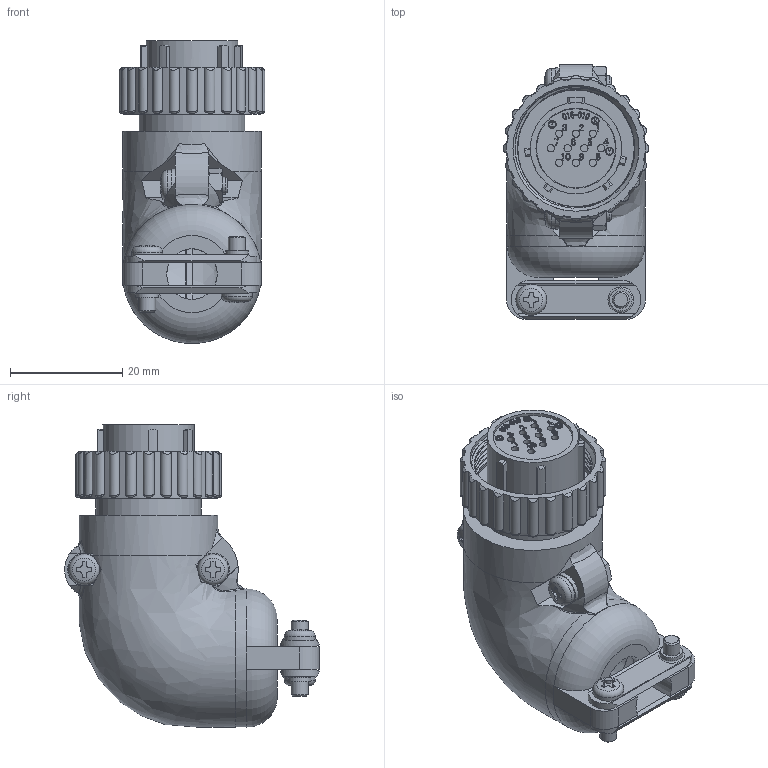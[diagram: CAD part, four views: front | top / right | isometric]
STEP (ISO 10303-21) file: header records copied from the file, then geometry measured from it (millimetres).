
FILE_DESCRIPTION (( 'STEP AP203' ), '1' );
FILE_NAME ('JMLP1610F-D.STEP', '2021-06-16T08:24:15', ( '' ), ( '' ), 'SwSTEP 2.0', 'SolidWorks 2018', '' );
FILE_SCHEMA (( 'CONFIG_CONTROL_DESIGN' ));
Length unit declared in the file: millimetre
Products named in the file (1): JMLP1610F-D
Bounding box: 26 x 45.48 x 54.08 mm (x, y, z)
Volume: 14937.8 mm3; surface area: 13650.6 mm2
Topology: 1 solids, 4 shells, 1212 faces, 3293 edges, 2172 vertices
Faces by surface type: plane 507, bspline 426, cylinder 196, cone 52, torus 27, sphere 4
Full cylindrical faces by diameter (mm): 1.1 x10, 1.2 x4, 1.3 x10, 1.4 x4, 1.55 x10, 2.4 x4, 3 x8, 3.3 x2, 3.5 x2, 4 x2, 5.5 x2, 9 x1, 13.9 x1, 14.1 x1, 14.3 x1, 16.3 x1, 16.4 x1, 18.8 x1, 20.8 x1, 22.1 x1, 22.5 x1, 24.5 x1, 24.8 x2
Entity records: 55555 total; most frequent: CARTESIAN_POINT 28830, ORIENTED_EDGE 6288, DIRECTION 4031, EDGE_CURVE 3144, VERTEX_POINT 2126, VECTOR 1491, LINE 1491, EDGE_LOOP 1412
